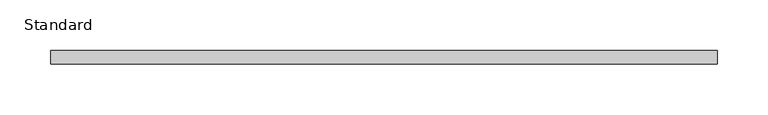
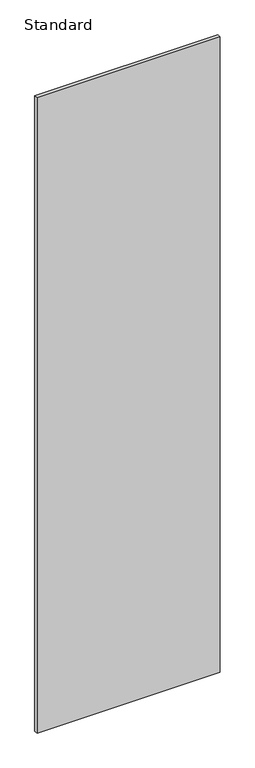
"""IFC4 building model written with IfcOpenShell, lengths in millimetres: furniture geometry, X_Partition-Compact Laminate-Duracube-Rectangular : Standard."""

from ifc_helpers import new_model, si_unit, origin, origin_with_axes, place, context, project, spatial, polyline, outline, extrude, source, transform, mapped, element, save


def standard_1f074c20(model_context):
    return source(origin(), model_context, "Body", "SweptSolid", [
        extrude(outline(polyline([(372.2003264, 0.0), (372.2003264, -13.0), (-282.7996736, -13.0), (-282.7996736, 0.0), (372.2003264, 0.0)])), origin_with_axes(), (0.0, 0.0, 1.0), 2398.0),
    ])


if __name__ == "__main__":
    model = new_model("IFC4")
    model_context = context("Model", 3, world=origin())
    ifc_project = project(units=[si_unit("LENGTHUNIT", "METRE", prefix="MILLI")], contexts=[model_context])
    site = spatial("IfcSite", under=ifc_project)
    building = spatial("IfcBuilding", under=site)
    placement = place(None, origin())
    standard_shape = standard_1f074c20(model_context)
    element("IfcFurniture", 1, ObjectType="X_Partition-Compact Laminate-Duracube-Rectangular : Standard", at=placement, inside=building, context=model_context, shape_type="MappedRepresentation", body=[
        mapped(standard_shape, transform((0.0, 0.0, 0.0), x_axis=(1.0, 0.0, 0.0), y_axis=(0.0, 1.0, 0.0), z_axis=(0.0, 0.0, 1.0))),
    ])
    save(model, "model.ifc")
